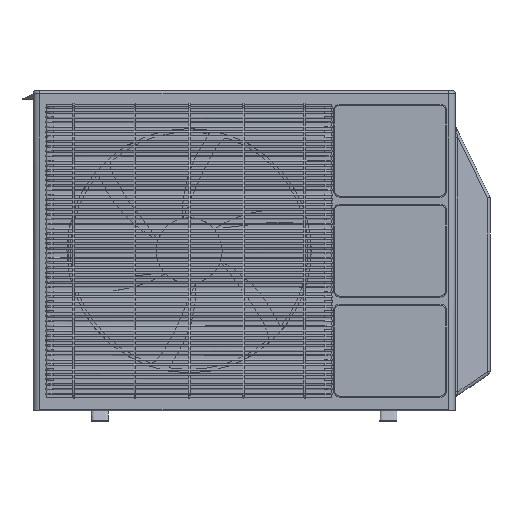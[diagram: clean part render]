
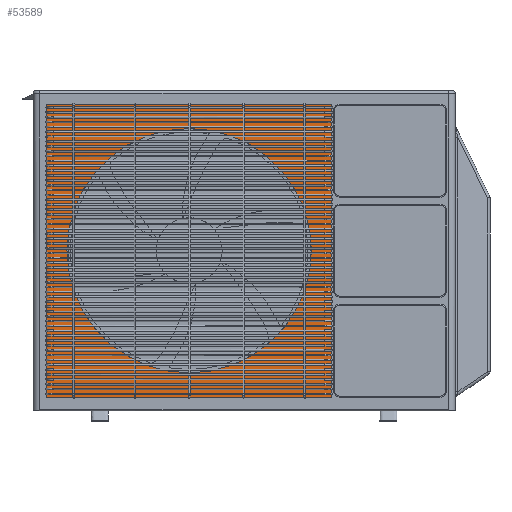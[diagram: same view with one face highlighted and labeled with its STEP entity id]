
A CAD part, front view. The second image highlights one B-rep face of the part: STEP entity #53589.
In plain terms, the highlighted planar face has unit normal (0, -1, 0).
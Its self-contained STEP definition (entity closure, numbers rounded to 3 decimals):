
#49265 = EDGE_CURVE('',#49266,#49268,#49270,.T.);
#49266 = VERTEX_POINT('',#49267);
#49267 = CARTESIAN_POINT('',(141.8,38.35,46.1));
#49268 = VERTEX_POINT('',#49269);
#49269 = CARTESIAN_POINT('',(141.8,38.35,594.581));
#49270 = LINE('',#49271,#49272);
#49271 = CARTESIAN_POINT('',(141.8,38.35,46.1));
#49272 = VECTOR('',#49273,1.);
#49273 = DIRECTION('',(0.,0.,1.));
#49305 = EDGE_CURVE('',#49306,#49266,#49308,.T.);
#49306 = VERTEX_POINT('',#49307);
#49307 = CARTESIAN_POINT('',(-391.6,38.35,46.1));
#49308 = LINE('',#49309,#49310);
#49309 = CARTESIAN_POINT('',(-391.6,38.35,46.1));
#49310 = VECTOR('',#49311,1.);
#49311 = DIRECTION('',(1.,0.,0.));
#49336 = EDGE_CURVE('',#49337,#49306,#49339,.T.);
#49337 = VERTEX_POINT('',#49338);
#49338 = CARTESIAN_POINT('',(-391.6,38.35,594.581));
#49339 = LINE('',#49340,#49341);
#49340 = CARTESIAN_POINT('',(-391.6,38.35,594.581));
#49341 = VECTOR('',#49342,1.);
#49342 = DIRECTION('',(0.,0.,-1.));
#49367 = EDGE_CURVE('',#49268,#49337,#49368,.T.);
#49368 = LINE('',#49369,#49370);
#49369 = CARTESIAN_POINT('',(141.8,38.35,594.581));
#49370 = VECTOR('',#49371,1.);
#49371 = DIRECTION('',(-1.,0.,0.));
#53589 = ADVANCED_FACE('',(#53590,#53596),#53616,.F.);
#53590 = FACE_BOUND('',#53591,.T.);
#53591 = EDGE_LOOP('',(#53592,#53593,#53594,#53595));
#53592 = ORIENTED_EDGE('',*,*,#49336,.T.);
#53593 = ORIENTED_EDGE('',*,*,#49305,.T.);
#53594 = ORIENTED_EDGE('',*,*,#49265,.T.);
#53595 = ORIENTED_EDGE('',*,*,#49367,.T.);
#53596 = FACE_BOUND('',#53597,.T.);
#53597 = EDGE_LOOP('',(#53598,#53609));
#53598 = ORIENTED_EDGE('',*,*,#53599,.F.);
#53599 = EDGE_CURVE('',#53600,#53602,#53604,.T.);
#53600 = VERTEX_POINT('',#53601);
#53601 = CARTESIAN_POINT('',(103.7,38.35,320.341));
#53602 = VERTEX_POINT('',#53603);
#53603 = CARTESIAN_POINT('',(-353.5,38.35,320.036));
#53604 = CIRCLE('',#53605,228.6);
#53605 = AXIS2_PLACEMENT_3D('',#53606,#53607,#53608);
#53606 = CARTESIAN_POINT('',(-124.9,38.35,320.341));
#53607 = DIRECTION('',(0.,-1.,0.));
#53608 = DIRECTION('',(1.,0.,0.));
#53609 = ORIENTED_EDGE('',*,*,#53610,.F.);
#53610 = EDGE_CURVE('',#53602,#53600,#53611,.T.);
#53611 = CIRCLE('',#53612,228.6);
#53612 = AXIS2_PLACEMENT_3D('',#53613,#53614,#53615);
#53613 = CARTESIAN_POINT('',(-124.9,38.35,320.341));
#53614 = DIRECTION('',(0.,-1.,0.));
#53615 = DIRECTION('',(1.,0.,0.));
#53616 = PLANE('',#53617);
#53617 = AXIS2_PLACEMENT_3D('',#53618,#53619,#53620);
#53618 = CARTESIAN_POINT('',(-417.,38.35,20.7));
#53619 = DIRECTION('',(0.,1.,0.));
#53620 = DIRECTION('',(-1.,0.,0.));
